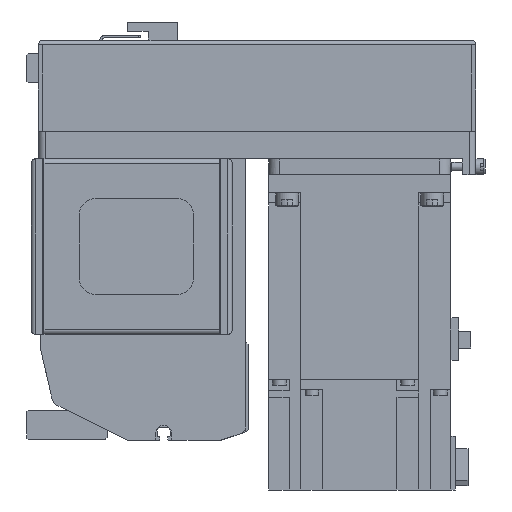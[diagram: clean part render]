
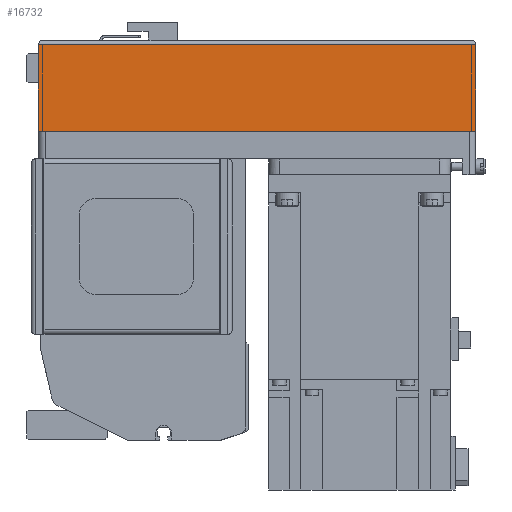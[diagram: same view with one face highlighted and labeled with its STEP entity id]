
A CAD part, left-side view. The second image highlights one B-rep face of the part: STEP entity #16732.
In plain terms, the highlighted planar face has unit normal (-1, 0, 0) as drawn and (0, -1, 0) by its records, which use the part's own axes.
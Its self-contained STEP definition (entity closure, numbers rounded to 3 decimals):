
#2658=ORIENTED_EDGE('',*,*,#6775,.F.);
#2659=ORIENTED_EDGE('',*,*,#6759,.F.);
#2660=ORIENTED_EDGE('',*,*,#6752,.T.);
#2661=ORIENTED_EDGE('',*,*,#6822,.T.);
#6752=EDGE_CURVE('',#8985,#8984,#10696,.T.);
#6759=EDGE_CURVE('',#8985,#8991,#10703,.T.);
#6775=EDGE_CURVE('',#8991,#9005,#10719,.T.);
#6822=EDGE_CURVE('',#8984,#9005,#10740,.T.);
#8984=VERTEX_POINT('',#25735);
#8985=VERTEX_POINT('',#25737);
#8991=VERTEX_POINT('',#25752);
#9005=VERTEX_POINT('',#25785);
#10696=LINE('',#25736,#12292);
#10703=LINE('',#25751,#12299);
#10719=LINE('',#25784,#12315);
#10740=LINE('',#25865,#12336);
#12292=VECTOR('',#20596,1000.);
#12299=VECTOR('',#20607,1000.);
#12315=VECTOR('',#20629,1000.);
#12336=VECTOR('',#20738,1000.);
#13750=EDGE_LOOP('',(#2658,#2659,#2660,#2661));
#14972=FACE_BOUND('',#13750,.T.);
#16025=PLANE('',#17947);
#16732=ADVANCED_FACE('',(#14972),#16025,.T.);
#17947=AXIS2_PLACEMENT_3D('',#25866,#20739,#20740);
#20596=DIRECTION('',(0.,0.,-1.));
#20607=DIRECTION('',(1.,0.,0.));
#20629=DIRECTION('',(0.,0.,-1.));
#20738=DIRECTION('',(1.,0.,0.));
#20739=DIRECTION('',(0.,-1.,0.));
#20740=DIRECTION('',(0.,0.,-1.));
#25735=CARTESIAN_POINT('',(-192.,-40.,-50.));
#25736=CARTESIAN_POINT('',(-192.,-40.,-12.1));
#25737=CARTESIAN_POINT('',(-192.,-40.,-12.1));
#25751=CARTESIAN_POINT('',(-192.,-40.,-12.1));
#25752=CARTESIAN_POINT('',(0.,-40.,-12.1));
#25784=CARTESIAN_POINT('',(0.,-40.,-12.1));
#25785=CARTESIAN_POINT('',(0.,-40.,-50.));
#25865=CARTESIAN_POINT('',(-192.,-40.,-50.));
#25866=CARTESIAN_POINT('',(-192.,-40.,-12.1));
